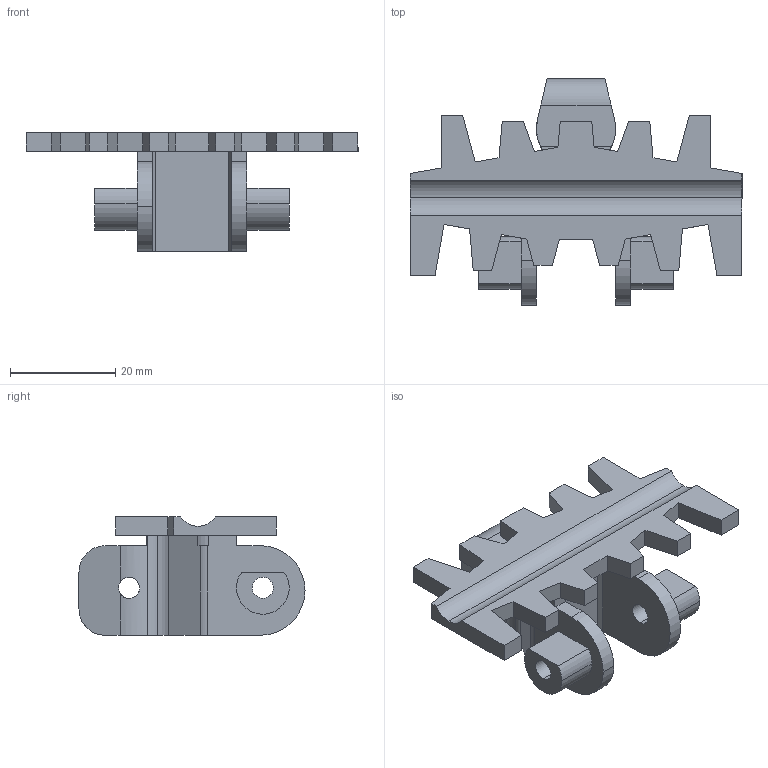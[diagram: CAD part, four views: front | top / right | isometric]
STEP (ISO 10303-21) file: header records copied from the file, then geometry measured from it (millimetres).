
FILE_DESCRIPTION (( 'STEP AP214' ), '1' );
FILE_NAME ('FSCT-5C.STEP', '2011-04-14T11:11:30', ( '.' ), ( '' ), 'SwSTEP 2.0', 'SolidWorks 2010', '' );
FILE_SCHEMA (( 'AUTOMOTIVE_DESIGN' ));
Length unit declared in the file: millimetre
Products named in the file (1): FSCT-5C
Bounding box: 63 x 42.9 x 22.5 mm (x, y, z)
Volume: 12488.9 mm3; surface area: 7660.8 mm2
Topology: 1 solids, 1 shells, 105 faces, 305 edges, 202 vertices
Faces by surface type: plane 75, cylinder 30
Entity records: 4720 total; most frequent: CARTESIAN_POINT 727, ORIENTED_EDGE 610, DIRECTION 557, EDGE_CURVE 305, VECTOR 237, LINE 237, VERTEX_POINT 202, AXIS2_PLACEMENT_3D 160
